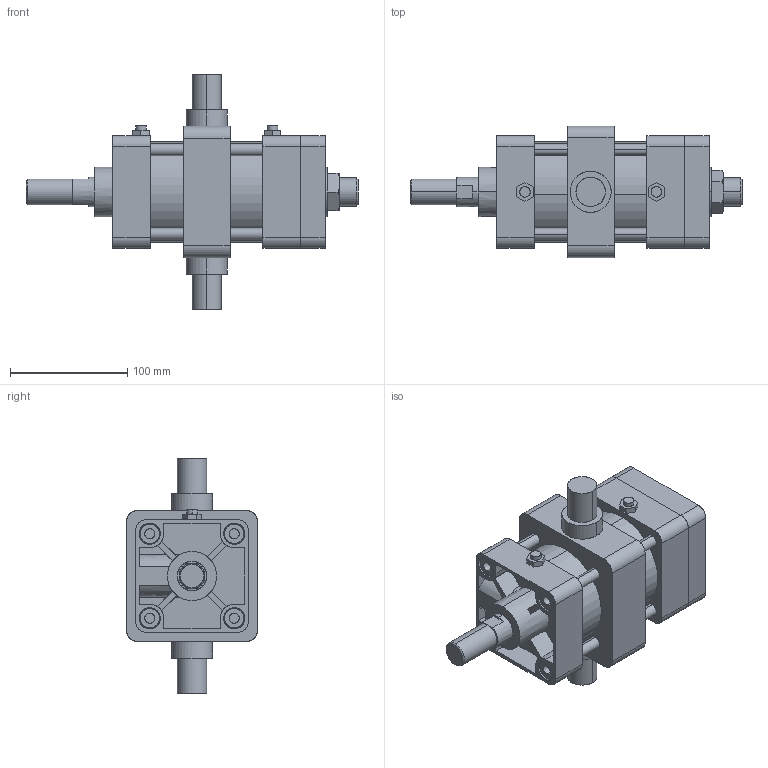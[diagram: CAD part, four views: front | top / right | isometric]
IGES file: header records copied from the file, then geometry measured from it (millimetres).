
Start section: SolidWorks IGES file using analytic representation for surfaces
Global section: file name: C:\Users\Toshiba\Desktop\KGA2-80#-50-T.IGS; native system: SolidWorks 2014; preprocessor: SolidWorks 2014; author: Toshiba; date: 160414.154510; units: millimetre
Bounding box: 283 x 112 x 200 mm (x, y, z)
Surface area: 255079.2 mm2 (no closed solid volume)
Topology: 0 solids, 0 shells, 380 faces, 6556 edges, 6552 vertices
Faces by surface type: bspline 196, revolution 184
